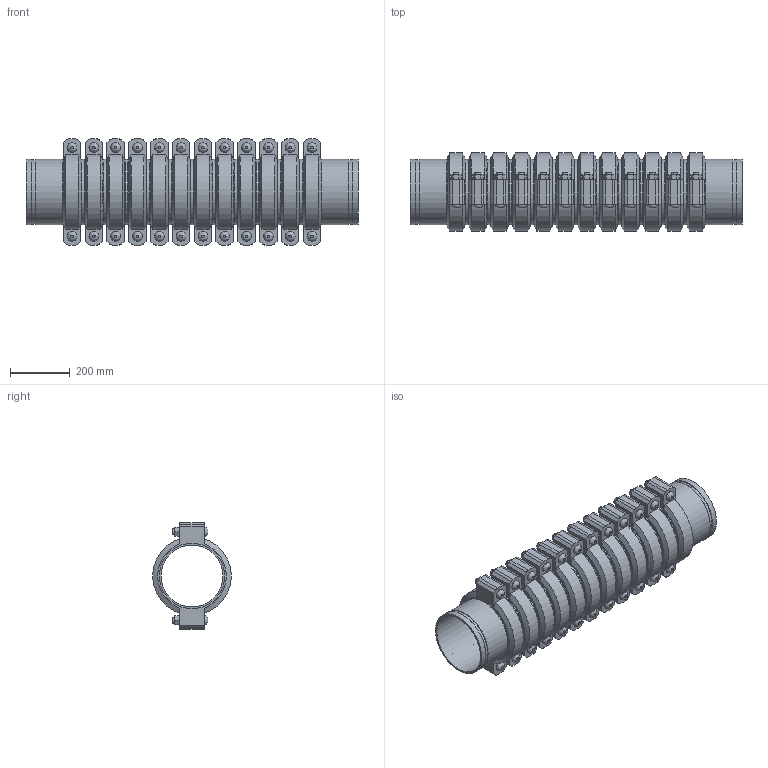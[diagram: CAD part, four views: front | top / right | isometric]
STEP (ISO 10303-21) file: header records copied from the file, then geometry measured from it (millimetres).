
FILE_DESCRIPTION(/* description */ ('VIC SS EXPANSION JOINT 12 COUPLINGS NEUTRAL STYLE 155P (OGS) (POTABLE WATER) ','CAx-IF Rec.Pracs.---Representation and Presentation of Product Manufacturing Information (PMI)---4.0---2014-10-13'),/* implementation_level */ '2;1');
FILE_NAME(/* name */ 'C:\Users\kkamble\AppData\Roaming\Autodesk\ApplicationPlugins\Victaulic.Temp\A871\Victaulic_SS_Expansion Joint_Neutral_12 Couplings_Style 155P (OGS)-Potable Water_12 Coup_Neut_8 (200).stp',/* time_stamp */ '2021-07-16T16:30:02+05:00',/* author */ ('kkamble'),/* organization */ ('Victaulic'),/* preprocessor_version */ 'ST-DEVELOPER v17.2',/* originating_system */ 'Autodesk Inventor 2019',/* authorisation */ '');
FILE_SCHEMA (('AP242_MANAGED_MODEL_BASED_3D_ENGINEERING_MIM_LF { 1 0 10303 442 1 1 4 }'));
Length unit declared in the file: inch
Products named in the file (4): 155P-08.0; Nipple-08.0; Nipple-08.0_1; 075-08.0
Assembly tree (25 placements, depth 2):
  155P-08.0
    Nipple-08.0  x2
    Nipple-08.0_1  x11
    075-08.0  x12
Bounding box: 1111.25 x 261.72 x 354.84 mm (x, y, z)
Volume: 20371413.5 mm3; surface area: 3666397.2 mm2
Topology: 25 solids, 49 shells, 840 faces, 1986 edges, 1392 vertices
Faces by surface type: plane 510, cylinder 258, cone 48, bspline 24
Full cylindrical faces by diameter (mm): 19.05 x48, 21.209 x24, 206.985 x13, 212.725 x12, 214.401 x26, 219.075 x63
Entity records: 2913 total; most frequent: CARTESIAN_POINT 509, DIRECTION 493, ORIENTED_EDGE 386, AXIS2_PLACEMENT_3D 200, EDGE_CURVE 193, VERTEX_POINT 138, EDGE_LOOP 107, LINE 93
